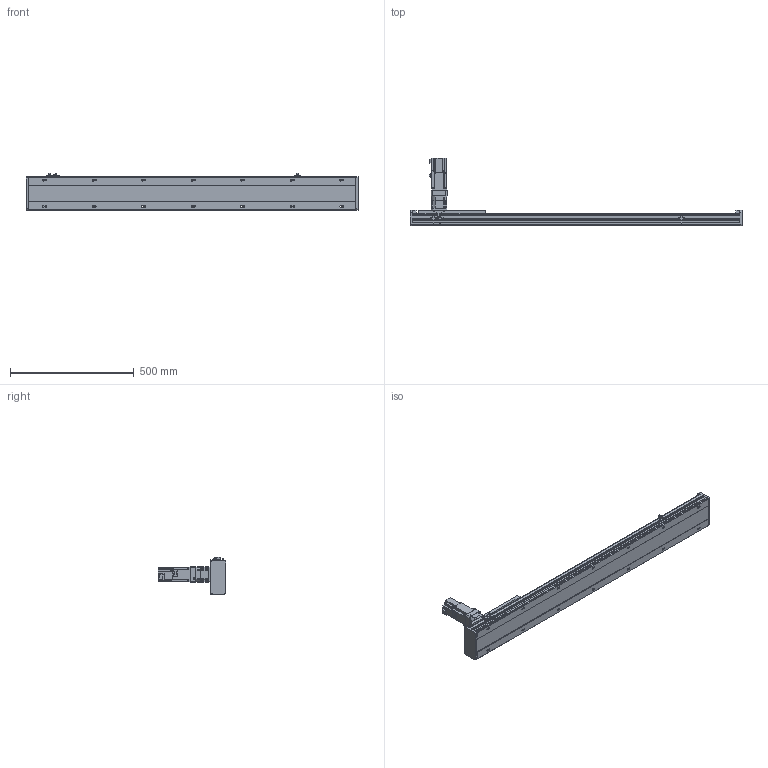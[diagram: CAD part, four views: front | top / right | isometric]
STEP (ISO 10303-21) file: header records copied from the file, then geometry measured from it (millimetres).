
FILE_DESCRIPTION(/* description */ ('STEP AP203'),/* implementation_level */ '2;1');
FILE_NAME(/* name */ 'SHS14A-L10-S1000-BC-T40-C1-N(0)',/* time_stamp */ '2023-03-27T08:25:34+02:00',/* author */ ('License CC BY-ND 4.0'),/* organization */ ('CADENAS'),/* preprocessor_version */ 'ST-DEVELOPER v19.3',/* originating_system */ 'PARTsolutions',/* authorisation */ ' ');
FILE_SCHEMA (('CONFIG_CONTROL_DESIGN'));
Length unit declared in the file: millimetre
Products named in the file (7): SHS14A-L10-S1000-BC-T40-C1-N(0); PSC140-sensor; T40-p1; SHS14AT_body3; SHS14A-1000_slider; SHS14A_body2; SHS14A-S1000-BC-T40-C1(0)_body
Assembly tree (13 placements, depth 2):
  SHS14A-L10-S1000-BC-T40-C1-N(0)
    PSC140-sensor  x3
    T40-p1
    SHS14AT_body3
    SHS14A-1000_slider
    SHS14A_body2  x6
    SHS14A-S1000-BC-T40-C1(0)_body
Bounding box: 1340 x 272.7 x 150.9 mm (x, y, z)
Volume: 6328403.6 mm3; surface area: 1011546.2 mm2
Topology: 13 solids, 13 shells, 2012 faces, 5143 edges, 3364 vertices
Faces by surface type: plane 1437, cylinder 499, cone 66, torus 10
Full cylindrical faces by diameter (mm): 2.8 x3, 4.134 x24, 4.2 x7, 4.4 x24, 4.5 x24, 4.6 x3, 4.8 x24, 4.917 x22, 5 x8, 5.5 x11, 5.94 x6, 6 x2, 6.6 x14, 8 x24, 8.49 x4, 8.5 x4, 9 x4, 10.5 x14, 13.964 x1, 14 x1, 14.182 x1, 16 x1, 18.974 x1, 19.274 x1, 19.774 x1, 19.8 x1, 34.442 x1, 42 x1, 50 x5
Entity records: 31144 total; most frequent: CARTESIAN_POINT 5472, DIRECTION 5269, ORIENTED_EDGE 4902, EDGE_CURVE 2451, AXIS2_PLACEMENT_3D 1793, VERTEX_POINT 1732, LINE 1683, VECTOR 1683
